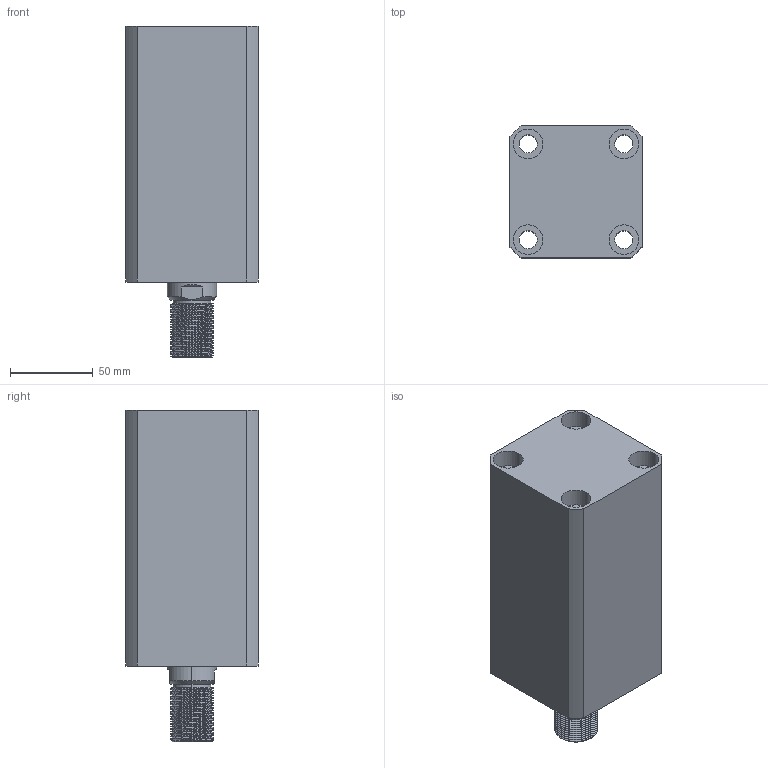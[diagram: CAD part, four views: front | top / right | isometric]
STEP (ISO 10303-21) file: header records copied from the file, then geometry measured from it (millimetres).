
FILE_DESCRIPTION (( 'STEP AP203' ), '1' );
FILE_NAME ('CHTB-SD50-95W.STEP', '2018-05-19T00:59:23', ( '' ), ( '' ), 'SwSTEP 2.0', 'SolidWorks 2015', '' );
FILE_SCHEMA (( 'CONFIG_CONTROL_DESIGN' ));
Length unit declared in the file: millimetre
Products named in the file (4): 掛极SD50-95W; CHTB-SD50-95W; CHTM-SD50QG; 活塞杆SD50-95W
Assembly tree (3 placements, depth 2):
  CHTB-SD50-95W
    掛极SD50-95W
    活塞杆SD50-95W
    CHTM-SD50QG
Bounding box: 80 x 80 x 201 mm (x, y, z)
Volume: 804133.6 mm3; surface area: 147586.1 mm2
Topology: 3 solids, 3 shells, 236 faces, 627 edges, 419 vertices
Faces by surface type: cylinder 144, plane 41, cone 19, bspline 16, torus 16
Entity records: 14613 total; most frequent: CARTESIAN_POINT 8784, ORIENTED_EDGE 1246, DIRECTION 1029, EDGE_CURVE 623, AXIS2_PLACEMENT_3D 422, VERTEX_POINT 419, EDGE_LOOP 276, FACE_OUTER_BOUND 236
